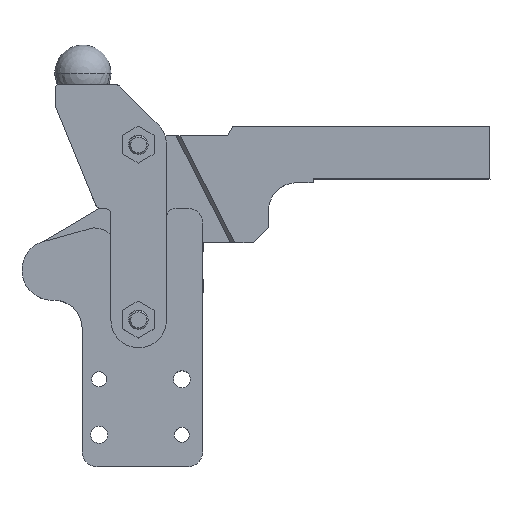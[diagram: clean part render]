
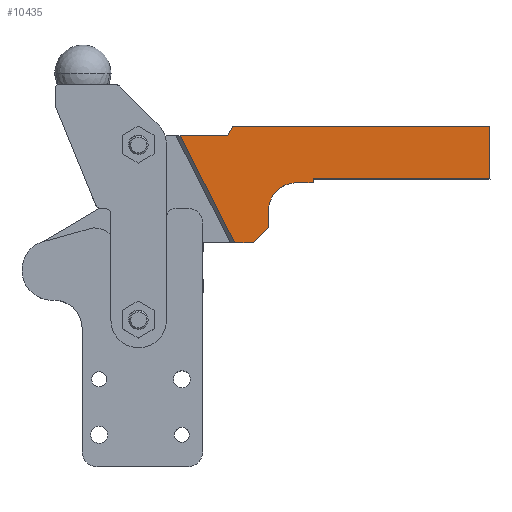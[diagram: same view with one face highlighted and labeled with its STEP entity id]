
A CAD part, top view. The second image highlights one B-rep face of the part: STEP entity #10435.
In plain terms, the highlighted planar face has unit normal (0, 0, 1).
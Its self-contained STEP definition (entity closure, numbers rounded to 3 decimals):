
#10315=CARTESIAN_POINT('',(165.006,633.547,52.));
#10316=VERTEX_POINT('',#10315);
#10323=CARTESIAN_POINT('',(165.006,605.547,52.));
#10324=VERTEX_POINT('',#10323);
#10325=CARTESIAN_POINT('',(165.006,605.547,52.));
#10326=DIRECTION('',(0.0,1.0,0.0));
#10327=VECTOR('',#10326,28.0);
#10328=LINE('',#10325,#10327);
#10329=EDGE_CURVE('',#10324,#10316,#10328,.T.);
#10340=CARTESIAN_POINT('',(-22.804,584.276,52.));
#10341=DIRECTION('',(0.0,0.0,1.0));
#10342=DIRECTION('',(1.0,0.0,0.0));
#10343=AXIS2_PLACEMENT_3D('',#10340,#10341,#10342);
#10344=PLANE('',#10343);
#10345=ORIENTED_EDGE('',*,*,#10329,.T.);
#10346=CARTESIAN_POINT('',(28.339,633.547,52.));
#10347=VERTEX_POINT('',#10346);
#10348=CARTESIAN_POINT('',(28.339,633.547,52.));
#10349=DIRECTION('',(1.0,0.0,0.0));
#10350=VECTOR('',#10349,136.667);
#10351=LINE('',#10348,#10350);
#10352=EDGE_CURVE('',#10347,#10316,#10351,.T.);
#10353=ORIENTED_EDGE('',*,*,#10352,.F.);
#10354=CARTESIAN_POINT('',(25.452,628.547,52.));
#10355=VERTEX_POINT('',#10354);
#10356=CARTESIAN_POINT('',(25.452,628.547,52.));
#10357=DIRECTION('',(0.5,0.866,0.));
#10358=VECTOR('',#10357,5.774);
#10359=LINE('',#10356,#10358);
#10360=EDGE_CURVE('',#10355,#10347,#10359,.T.);
#10361=ORIENTED_EDGE('',*,*,#10360,.F.);
#10362=CARTESIAN_POINT('',(0.256,628.547,52.));
#10363=VERTEX_POINT('',#10362);
#10364=CARTESIAN_POINT('',(0.256,628.547,52.));
#10365=DIRECTION('',(1.0,0.0,0.0));
#10366=VECTOR('',#10365,25.196);
#10367=LINE('',#10364,#10366);
#10368=EDGE_CURVE('',#10363,#10355,#10367,.T.);
#10369=ORIENTED_EDGE('',*,*,#10368,.F.);
#10370=CARTESIAN_POINT('',(29.256,571.547,52.));
#10371=VERTEX_POINT('',#10370);
#10372=CARTESIAN_POINT('',(0.256,628.547,52.));
#10373=DIRECTION('',(0.453,-0.891,0.));
#10374=VECTOR('',#10373,63.953);
#10375=LINE('',#10372,#10374);
#10376=EDGE_CURVE('',#10363,#10371,#10375,.T.);
#10377=ORIENTED_EDGE('',*,*,#10376,.T.);
#10378=CARTESIAN_POINT('',(39.256,571.547,52.));
#10379=VERTEX_POINT('',#10378);
#10380=CARTESIAN_POINT('',(39.256,571.547,52.));
#10381=DIRECTION('',(-1.0,0.0,0.0));
#10382=VECTOR('',#10381,10.);
#10383=LINE('',#10380,#10382);
#10384=EDGE_CURVE('',#10379,#10371,#10383,.T.);
#10385=ORIENTED_EDGE('',*,*,#10384,.F.);
#10386=CARTESIAN_POINT('',(47.256,579.547,52.));
#10387=VERTEX_POINT('',#10386);
#10388=CARTESIAN_POINT('',(47.256,579.547,52.));
#10389=DIRECTION('',(-0.707,-0.707,0.));
#10390=VECTOR('',#10389,11.314);
#10391=LINE('',#10388,#10390);
#10392=EDGE_CURVE('',#10387,#10379,#10391,.T.);
#10393=ORIENTED_EDGE('',*,*,#10392,.F.);
#10394=CARTESIAN_POINT('',(47.256,588.547,52.));
#10395=VERTEX_POINT('',#10394);
#10396=CARTESIAN_POINT('',(47.256,588.547,52.));
#10397=DIRECTION('',(0.0,-1.0,0.0));
#10398=VECTOR('',#10397,9.0);
#10399=LINE('',#10396,#10398);
#10400=EDGE_CURVE('',#10395,#10387,#10399,.T.);
#10401=ORIENTED_EDGE('',*,*,#10400,.F.);
#10402=CARTESIAN_POINT('',(62.256,603.547,52.));
#10403=VERTEX_POINT('',#10402);
#10404=CARTESIAN_POINT('',(62.256,588.547,52.));
#10405=DIRECTION('',(0.0,0.0,1.0));
#10406=DIRECTION('',(0.0,-1.0,0.0));
#10407=AXIS2_PLACEMENT_3D('',#10404,#10405,#10406);
#10408=CIRCLE('',#10407,15.0);
#10409=EDGE_CURVE('',#10403,#10395,#10408,.T.);
#10410=ORIENTED_EDGE('',*,*,#10409,.F.);
#10411=CARTESIAN_POINT('',(71.006,603.547,52.));
#10412=VERTEX_POINT('',#10411);
#10413=CARTESIAN_POINT('',(71.006,603.547,52.));
#10414=DIRECTION('',(-1.0,0.0,0.0));
#10415=VECTOR('',#10414,8.75);
#10416=LINE('',#10413,#10415);
#10417=EDGE_CURVE('',#10412,#10403,#10416,.T.);
#10418=ORIENTED_EDGE('',*,*,#10417,.F.);
#10419=CARTESIAN_POINT('',(71.006,605.547,52.));
#10420=VERTEX_POINT('',#10419);
#10421=CARTESIAN_POINT('',(71.006,605.547,52.));
#10422=DIRECTION('',(0.0,-1.0,0.0));
#10423=VECTOR('',#10422,2.);
#10424=LINE('',#10421,#10423);
#10425=EDGE_CURVE('',#10420,#10412,#10424,.T.);
#10426=ORIENTED_EDGE('',*,*,#10425,.F.);
#10427=CARTESIAN_POINT('',(165.006,605.547,52.));
#10428=DIRECTION('',(-1.0,0.0,0.0));
#10429=VECTOR('',#10428,94.);
#10430=LINE('',#10427,#10429);
#10431=EDGE_CURVE('',#10324,#10420,#10430,.T.);
#10432=ORIENTED_EDGE('',*,*,#10431,.F.);
#10433=EDGE_LOOP('',(#10345,#10353,#10361,#10369,#10377,#10385,#10393,#10401,#10410,#10418,#10426,#10432));
#10434=FACE_OUTER_BOUND('',#10433,.T.);
#10435=ADVANCED_FACE('',(#10434),#10344,.T.);
